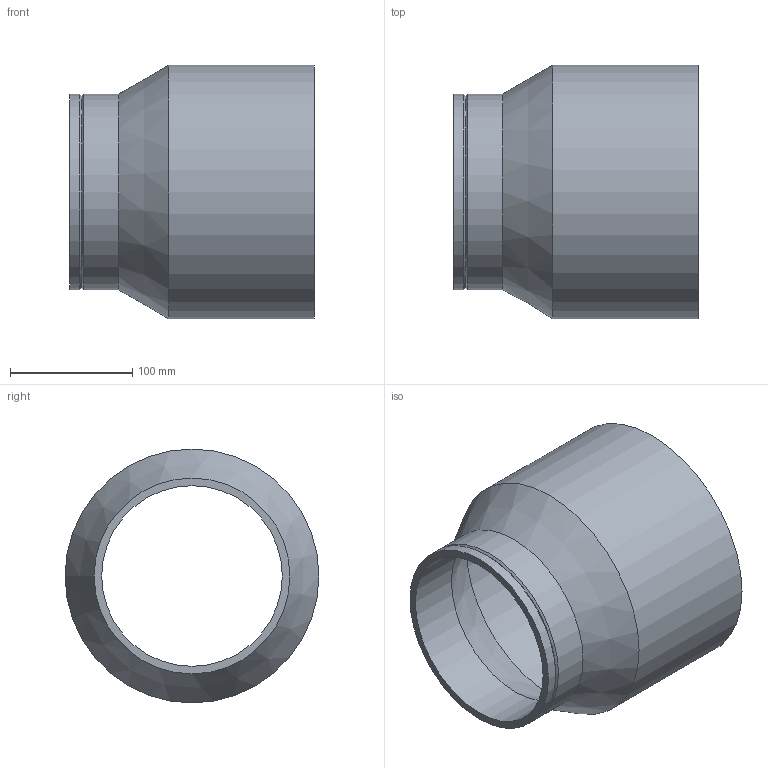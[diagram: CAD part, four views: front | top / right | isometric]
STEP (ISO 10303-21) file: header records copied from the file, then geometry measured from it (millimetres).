
FILE_DESCRIPTION(/* description */ (''),/* implementation_level */ '2;1');
FILE_NAME(/* name */ 'Z:\Geberit\Export\NewStep\369550.stp',/* time_stamp */ '2014-04-02T08:02:45+02:00',/* author */ ('nelson'),/* organization */ (''),/* preprocessor_version */ 'ST-DEVELOPER v15.2',/* originating_system */ 'Autodesk Inventor 2014',/* authorisation */ '');
FILE_SCHEMA (('AUTOMOTIVE_DESIGN { 1 0 10303 214 3 1 1 }'));
Length unit declared in the file: millimetre
Products named in the file (1): 369550
Bounding box: 200 x 207.4 x 207.4 mm (x, y, z)
Volume: 747820.3 mm3; surface area: 249202.9 mm2
Topology: 1 solids, 1 shells, 11 faces, 20 edges, 11 vertices
Faces by surface type: cylinder 5, cone 4, plane 2
Full cylindrical faces by diameter (mm): 147.6 x1, 160 x2, 195 x1, 207.4 x1
Entity records: 249 total; most frequent: DIRECTION 46, CARTESIAN_POINT 34, AXIS2_PLACEMENT_3D 23, EDGE_LOOP 22, ORIENTED_EDGE 22, FACE_BOUND 12, CIRCLE 11, VERTEX_POINT 11
